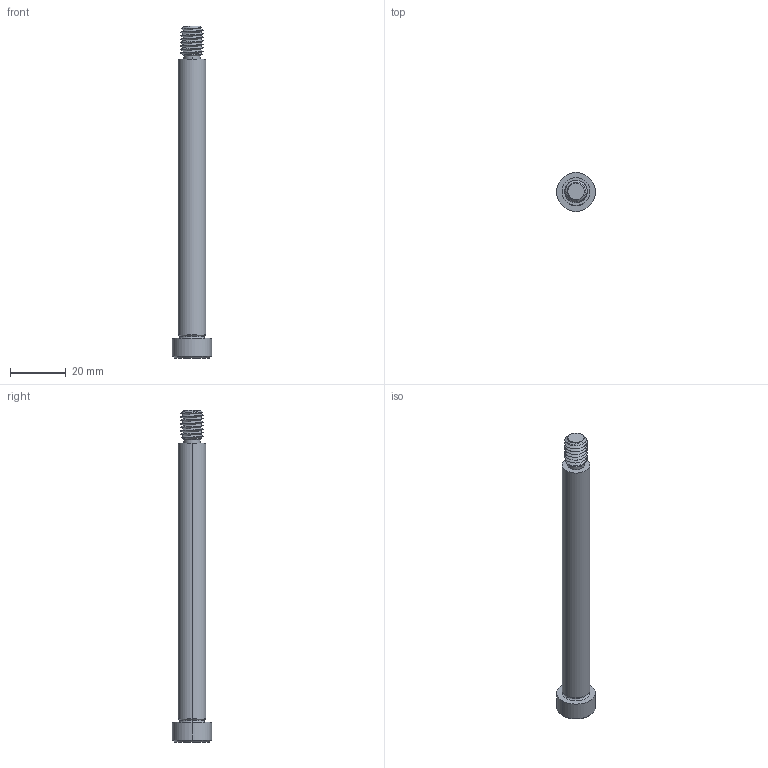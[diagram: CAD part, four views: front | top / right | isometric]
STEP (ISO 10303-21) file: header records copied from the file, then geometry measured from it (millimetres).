
FILE_DESCRIPTION (( 'STEP AP203' ), '1' );
FILE_NAME ('P0130.100-100-B8.step', '2021-11-09T22:00:09', ( '' ), ( '' ), 'SwSTEP 2.0', 'SolidWorks 2019', '' );
FILE_SCHEMA (( 'CONFIG_CONTROL_DESIGN' ));
Length unit declared in the file: millimetre
Products named in the file (1): P0130.100-100-B8
Bounding box: 14 x 14 x 119 mm (x, y, z)
Volume: 9222 mm3; surface area: 4319.5 mm2
Topology: 1 solids, 1 shells, 58 faces, 136 edges, 81 vertices
Faces by surface type: cylinder 21, plane 16, cone 15, torus 4, bspline 2
Entity records: 4214 total; most frequent: CARTESIAN_POINT 2911, ORIENTED_EDGE 268, DIRECTION 241, EDGE_CURVE 134, AXIS2_PLACEMENT_3D 97, VERTEX_POINT 81, EDGE_LOOP 61, FACE_OUTER_BOUND 58
